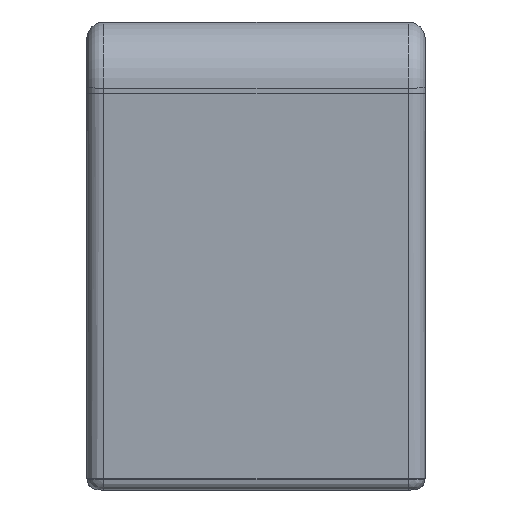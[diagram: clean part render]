
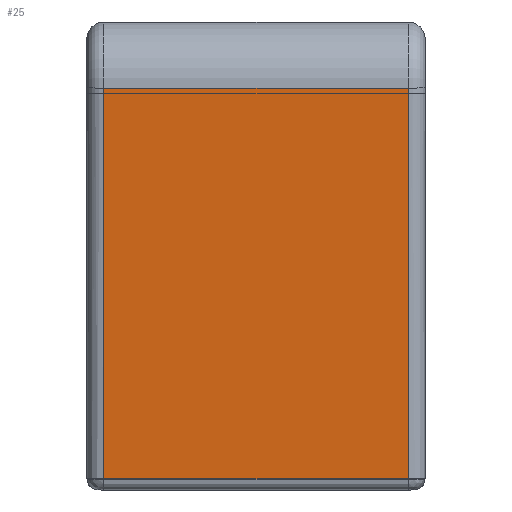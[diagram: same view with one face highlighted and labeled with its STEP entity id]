
A CAD part, left-side view. The second image highlights one B-rep face of the part: STEP entity #25.
In plain terms, the highlighted planar face has unit normal (-0.998, 0, -0.067).
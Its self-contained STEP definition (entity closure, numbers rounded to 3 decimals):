
#25 = ADVANCED_FACE ( 'NONE', ( #1215 ), #4096, .T. ) ;
#332 = EDGE_CURVE ( 'NONE', #3596, #3606, #773, .T. ) ;
#333 = EDGE_CURVE ( 'NONE', #3606, #3591, #1219, .T. ) ;
#334 = EDGE_CURVE ( 'NONE', #3591, #3592, #793, .T. ) ;
#335 = EDGE_CURVE ( 'NONE', #3596, #3592, #798, .T. ) ;
#455 = AXIS2_PLACEMENT_3D ( 'NONE', #4097, #4098, #4099 ) ;
#484 = EDGE_LOOP ( 'NONE', ( #1659, #1661, #1662, #1663 ) ) ;
#771 = VECTOR ( 'NONE', #3167, 1000. ) ;
#773 = LINE ( 'NONE', #3166, #771 ) ;
#777 = VECTOR ( 'NONE', #3171, 1000. ) ;
#793 = LINE ( 'NONE', #3170, #777 ) ;
#798 = LINE ( 'NONE', #3172, #827 ) ;
#827 = VECTOR ( 'NONE', #3173, 1000. ) ;
#1133 = VECTOR ( 'NONE', #3169, 1000. ) ;
#1215 = FACE_OUTER_BOUND ( 'NONE', #484, .T. ) ;
#1219 = LINE ( 'NONE', #3168, #1133 ) ;
#1659 = ORIENTED_EDGE ( 'NONE', *, *, #332, .T. ) ;
#1661 = ORIENTED_EDGE ( 'NONE', *, *, #333, .T. ) ;
#1662 = ORIENTED_EDGE ( 'NONE', *, *, #334, .T. ) ;
#1663 = ORIENTED_EDGE ( 'NONE', *, *, #335, .F. ) ;
#2121 = CARTESIAN_POINT ( 'NONE',  ( -493.063, -13.5, -6.067 ) ) ;
#2122 = CARTESIAN_POINT ( 'NONE',  ( -495.388, -13.5, 28.632 ) ) ;
#2126 = CARTESIAN_POINT ( 'NONE',  ( -495.388, 13.5, 28.632 ) ) ;
#2136 = CARTESIAN_POINT ( 'NONE',  ( -493.063, 13.5, -6.067 ) ) ;
#3166 = CARTESIAN_POINT ( 'NONE',  ( -493., 13.5, -7. ) ) ;
#3167 = DIRECTION ( 'NONE',  ( 0.067, 0., -0.998 ) ) ;
#3168 = CARTESIAN_POINT ( 'NONE',  ( -493.063, 15., -6.067 ) ) ;
#3169 = DIRECTION ( 'NONE',  ( 0., -1., 0. ) ) ;
#3170 = CARTESIAN_POINT ( 'NONE',  ( -495.388, -13.5, 28.632 ) ) ;
#3171 = DIRECTION ( 'NONE',  ( -0.067, 0., 0.998 ) ) ;
#3172 = CARTESIAN_POINT ( 'NONE',  ( -495.388, 15., 28.632 ) ) ;
#3173 = DIRECTION ( 'NONE',  ( 0., -1., 0. ) ) ;
#3591 = VERTEX_POINT ( 'NONE', #2121 ) ;
#3592 = VERTEX_POINT ( 'NONE', #2122 ) ;
#3596 = VERTEX_POINT ( 'NONE', #2126 ) ;
#3606 = VERTEX_POINT ( 'NONE', #2136 ) ;
#4096 = PLANE ( 'NONE',  #455 ) ;
#4097 = CARTESIAN_POINT ( 'NONE',  ( -493., 15., -7. ) ) ;
#4098 = DIRECTION ( 'NONE',  ( -0.998, 0., -0.067 ) ) ;
#4099 = DIRECTION ( 'NONE',  ( -0.067, 0., 0.998 ) ) ;
